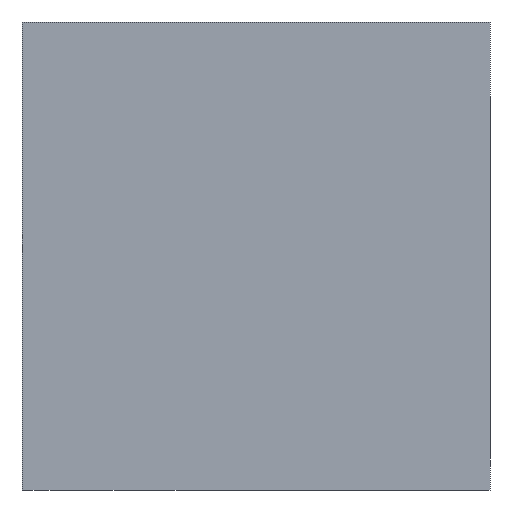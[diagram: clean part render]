
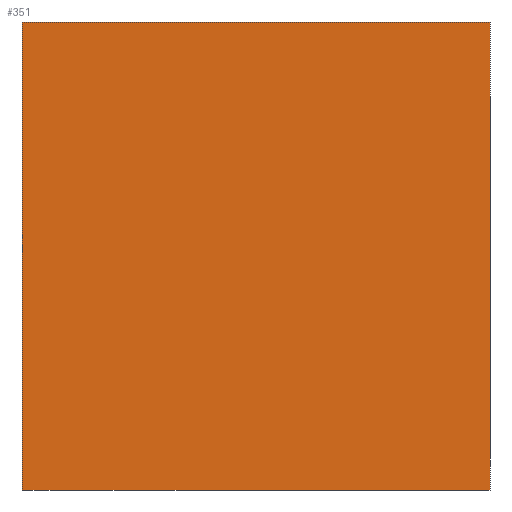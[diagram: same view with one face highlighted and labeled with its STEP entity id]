
A CAD part, front view. The second image highlights one B-rep face of the part: STEP entity #351.
In plain terms, the highlighted planar face has unit normal (0, -1, 0).
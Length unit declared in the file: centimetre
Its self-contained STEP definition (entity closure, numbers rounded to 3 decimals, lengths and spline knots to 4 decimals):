
#1 = DIRECTION ( 'NONE',  ( 0., 0., -1. ) ) ;
#2 = EDGE_CURVE ( 'NONE', #4, #95, #168, .T. ) ;
#4 = VERTEX_POINT ( 'NONE', #75 ) ;
#26 = ORIENTED_EDGE ( 'NONE', *, *, #338, .T. ) ;
#36 = LINE ( 'NONE', #162, #370 ) ;
#41 = FACE_OUTER_BOUND ( 'NONE', #255, .T. ) ;
#46 = VECTOR ( 'NONE', #1, 100. ) ;
#57 = VERTEX_POINT ( 'NONE', #287 ) ;
#75 = CARTESIAN_POINT ( 'NONE',  ( 1000., 0., 1000. ) ) ;
#76 = DIRECTION ( 'NONE',  ( 1., 0., 0. ) ) ;
#95 = VERTEX_POINT ( 'NONE', #424 ) ;
#101 = CARTESIAN_POINT ( 'NONE',  ( 0., 0., 1000. ) ) ;
#132 = VECTOR ( 'NONE', #76, 100. ) ;
#135 = DIRECTION ( 'NONE',  ( 1., 0., 0. ) ) ;
#152 = ORIENTED_EDGE ( 'NONE', *, *, #360, .F. ) ;
#156 = VERTEX_POINT ( 'NONE', #293 ) ;
#162 = CARTESIAN_POINT ( 'NONE',  ( 0., 0., 1000. ) ) ;
#164 = DIRECTION ( 'NONE',  ( 0., 1., 0. ) ) ;
#168 = LINE ( 'NONE', #236, #428 ) ;
#191 = EDGE_CURVE ( 'NONE', #57, #95, #341, .T. ) ;
#195 = CARTESIAN_POINT ( 'NONE',  ( 0., 0., 1000. ) ) ;
#225 = AXIS2_PLACEMENT_3D ( 'NONE', #101, #164, #305 ) ;
#236 = CARTESIAN_POINT ( 'NONE',  ( 1000., 0., 1000. ) ) ;
#255 = EDGE_LOOP ( 'NONE', ( #432, #260, #152, #26 ) ) ;
#260 = ORIENTED_EDGE ( 'NONE', *, *, #2, .F. ) ;
#287 = CARTESIAN_POINT ( 'NONE',  ( 0., 0., 0. ) ) ;
#293 = CARTESIAN_POINT ( 'NONE',  ( 0., 0., 1000. ) ) ;
#305 = DIRECTION ( 'NONE',  ( 0., 0., 1. ) ) ;
#308 = LINE ( 'NONE', #195, #46 ) ;
#312 = CARTESIAN_POINT ( 'NONE',  ( 0., 0., 0. ) ) ;
#338 = EDGE_CURVE ( 'NONE', #156, #57, #308, .T. ) ;
#340 = DIRECTION ( 'NONE',  ( 0., 0., -1. ) ) ;
#341 = LINE ( 'NONE', #312, #132 ) ;
#351 = ADVANCED_FACE ( 'NONE', ( #41 ), #406, .F. ) ;
#360 = EDGE_CURVE ( 'NONE', #156, #4, #36, .T. ) ;
#370 = VECTOR ( 'NONE', #135, 100. ) ;
#406 = PLANE ( 'NONE',  #225 ) ;
#424 = CARTESIAN_POINT ( 'NONE',  ( 1000., 0., 0. ) ) ;
#428 = VECTOR ( 'NONE', #340, 100. ) ;
#432 = ORIENTED_EDGE ( 'NONE', *, *, #191, .T. ) ;
